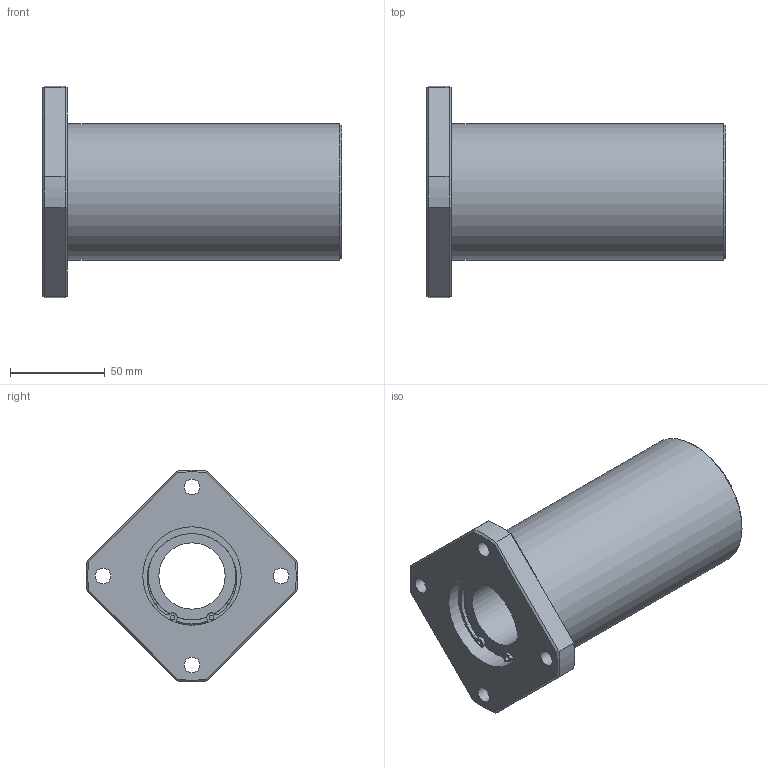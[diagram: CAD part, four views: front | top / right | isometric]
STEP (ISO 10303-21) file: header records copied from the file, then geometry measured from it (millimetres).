
FILE_DESCRIPTION((''),'2;1');
FILE_NAME('D:\製品 (図面)\カタログ用3D\リニアベアリング関連(改)\STEP形式\LFWK\LFWK35.stp','2010-01-22T15:59:45',('Tsuchiya'),(''),'Autodesk Inventor 10','Autodesk Inventor 10','');
FILE_SCHEMA(('AUTOMOTIVE_DESIGN { 1 0 10303 214 1 1 1 1 }'));
Length unit declared in the file: millimetre
Products named in the file (1): LFWK35
Bounding box: 158 x 111.86 x 111.86 mm (x, y, z)
Volume: 515117.6 mm3; surface area: 78080.8 mm2
Topology: 1 solids, 6 shells, 104 faces, 264 edges, 159 vertices
Faces by surface type: plane 33, bspline 32, cylinder 28, cone 9, torus 2
Full cylindrical faces by diameter (mm): 2.5 x2, 8.376 x4, 35 x1, 46.4 x2, 49 x2, 52 x7, 72 x1
Entity records: 3210 total; most frequent: CARTESIAN_POINT 884, DIRECTION 492, ORIENTED_EDGE 430, AXIS2_PLACEMENT_3D 220, EDGE_CURVE 215, EDGE_LOOP 164, CIRCLE 147, VERTEX_POINT 143
